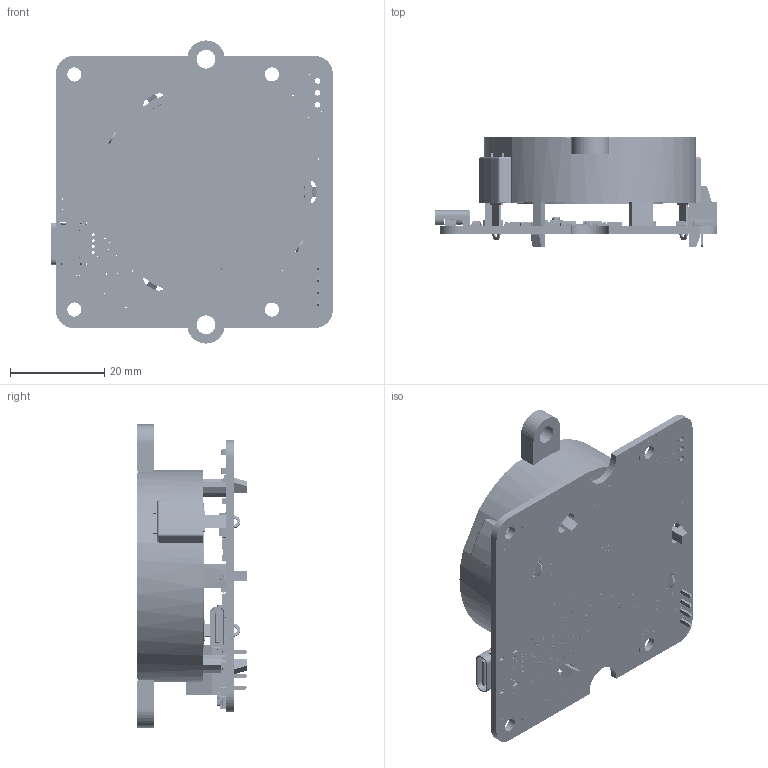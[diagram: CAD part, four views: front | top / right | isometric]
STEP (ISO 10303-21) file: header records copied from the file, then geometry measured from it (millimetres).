
FILE_DESCRIPTION (( 'STEP AP214' ), '1' );
FILE_NAME ('YMXBUZ1C.STEP', '2025-02-14T16:46:02', ( '' ), ( '' ), 'SwSTEP 2.0', 'SolidWorks 2008', '' );
FILE_SCHEMA (( 'AUTOMOTIVE_DESIGN' ));
Length unit declared in the file: millimetre
Products named in the file (39): R19; RGB1; R17; R21; sens1; R20; R18; YBUTTON; YLED; REG1; T2; USB1; T3; SPK1; YMXBUZ1C; C3; PCB; AUDIO_D; C13; C16; C18; C2; C19; C23; CPU1; C12; R14; P2; PVSS; R1; R2; R4; R5; R8; R11; R12; R13; R15; C25
Assembly tree (58 placements, depth 2):
  YMXBUZ1C
    R18  x2
    R17  x2
    C12  x7
    R15  x2
    C25  x4
    PCB
    R4
    T3  x2
    C13  x3
    C16
    YBUTTON  x3
    C2
    R13  x2
    R2
    REG1
    R5
    P2
    R1
    R20  x3
    C23  x2
    C3
    C18
    R14
    RGB1
    CPU1
    USB1
    R19
    T2
    SPK1
    AUDIO_D
    R21
    R8
    sens1
    R11
    YLED
    C19
    R12
  PVSS
Bounding box: 60.03 x 23.5 x 64.5 mm (x, y, z)
Volume: 12433.2 mm3; surface area: 21137.6 mm2
Topology: 72 solids, 72 shells, 9011 faces, 23495 edges, 15180 vertices
Faces by surface type: plane 5558, cylinder 2520, bspline 680, sphere 204, torus 31, cone 18
Entity records: 341071 total; most frequent: CARTESIAN_POINT 77161, ORIENTED_EDGE 40142, DIRECTION 37465, EDGE_CURVE 20071, VECTOR 14459, LINE 14459, VERTEX_POINT 13209, AXIS2_PLACEMENT_3D 11503
